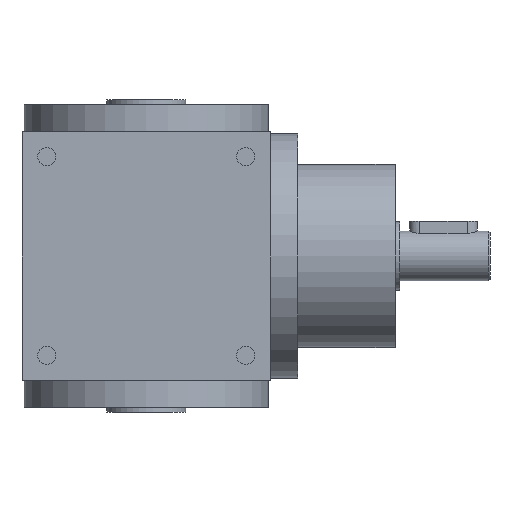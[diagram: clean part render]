
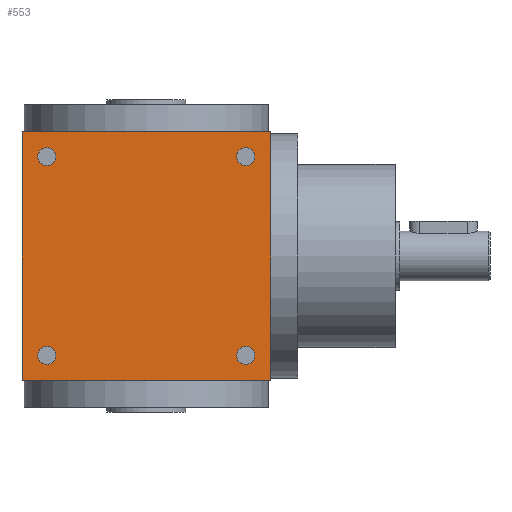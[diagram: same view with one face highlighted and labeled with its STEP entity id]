
A CAD part, left-side view. The second image highlights one B-rep face of the part: STEP entity #553.
In plain terms, the highlighted planar face has unit normal (-1, 0, 0).
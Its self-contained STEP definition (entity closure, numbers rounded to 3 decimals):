
#32 = DIRECTION ( 'NONE',  ( 1., 0., 0. ) ) ;
#34 = DIRECTION ( 'NONE',  ( 0., 0., -1. ) ) ;
#51 = CARTESIAN_POINT ( 'NONE',  ( -55., -44., -48. ) ) ;
#68 = CARTESIAN_POINT ( 'NONE',  ( -55., -44., 48. ) ) ;
#91 = CARTESIAN_POINT ( 'NONE',  ( -55., -55., 55. ) ) ;
#96 = DIRECTION ( 'NONE',  ( 0., 0., -1. ) ) ;
#111 = DIRECTION ( 'NONE',  ( 1., 0., 0. ) ) ;
#134 = DIRECTION ( 'NONE',  ( 0., 0., -1. ) ) ;
#143 = VERTEX_POINT ( 'NONE', #720 ) ;
#173 = CARTESIAN_POINT ( 'NONE',  ( -55., -44., -44. ) ) ;
#180 = CARTESIAN_POINT ( 'NONE',  ( -55., 44., 48. ) ) ;
#190 = ORIENTED_EDGE ( 'NONE', *, *, #5753, .T. ) ;
#203 = CARTESIAN_POINT ( 'NONE',  ( -55., 55., -55. ) ) ;
#220 = VERTEX_POINT ( 'NONE', #180 ) ;
#246 = DIRECTION ( 'NONE',  ( 1., 0., 0. ) ) ;
#248 = CARTESIAN_POINT ( 'NONE',  ( -55., -55., 55. ) ) ;
#300 = EDGE_LOOP ( 'NONE', ( #638, #190 ) ) ;
#338 = DIRECTION ( 'NONE',  ( 1., 0., 0. ) ) ;
#349 = EDGE_LOOP ( 'NONE', ( #562, #5762 ) ) ;
#442 = CARTESIAN_POINT ( 'NONE',  ( -55., 44., -44. ) ) ;
#450 = EDGE_LOOP ( 'NONE', ( #788, #1363, #3472, #4327 ) ) ;
#520 = EDGE_CURVE ( 'NONE', #4783, #4170, #1506, .T. ) ;
#553 = ADVANCED_FACE ( 'NONE', ( #1416, #1104, #909, #762, #605 ), #795, .F. ) ;
#562 = ORIENTED_EDGE ( 'NONE', *, *, #520, .T. ) ;
#605 = FACE_BOUND ( 'NONE', #300, .T. ) ;
#638 = ORIENTED_EDGE ( 'NONE', *, *, #5896, .T. ) ;
#652 = DIRECTION ( 'NONE',  ( 0., 0., -1. ) ) ;
#720 = CARTESIAN_POINT ( 'NONE',  ( -55., 44., 40. ) ) ;
#762 = FACE_BOUND ( 'NONE', #349, .T. ) ;
#788 = ORIENTED_EDGE ( 'NONE', *, *, #5116, .F. ) ;
#795 = PLANE ( 'NONE',  #1862 ) ;
#909 = FACE_BOUND ( 'NONE', #3723, .T. ) ;
#923 = VERTEX_POINT ( 'NONE', #203 ) ;
#966 = VERTEX_POINT ( 'NONE', #248 ) ;
#970 = AXIS2_PLACEMENT_3D ( 'NONE', #4626, #1871, #5100 ) ;
#1104 = FACE_BOUND ( 'NONE', #2735, .T. ) ;
#1165 = VECTOR ( 'NONE', #4078, 1000. ) ;
#1301 = DIRECTION ( 'NONE',  ( 0., 0., 1. ) ) ;
#1308 = ORIENTED_EDGE ( 'NONE', *, *, #2926, .T. ) ;
#1363 = ORIENTED_EDGE ( 'NONE', *, *, #5220, .F. ) ;
#1388 = VECTOR ( 'NONE', #5863, 1000. ) ;
#1406 = AXIS2_PLACEMENT_3D ( 'NONE', #4677, #4656, #4602 ) ;
#1416 = FACE_OUTER_BOUND ( 'NONE', #450, .T. ) ;
#1506 = CIRCLE ( 'NONE', #2190, 4. ) ;
#1519 = EDGE_CURVE ( 'NONE', #3333, #2915, #2423, .T. ) ;
#1543 = CIRCLE ( 'NONE', #1406, 4. ) ;
#1581 = CARTESIAN_POINT ( 'NONE',  ( -55., 55., -55. ) ) ;
#1684 = CARTESIAN_POINT ( 'NONE',  ( -55., -55., 55. ) ) ;
#1767 = AXIS2_PLACEMENT_3D ( 'NONE', #3243, #338, #3675 ) ;
#1862 = AXIS2_PLACEMENT_3D ( 'NONE', #91, #111, #134 ) ;
#1871 = DIRECTION ( 'NONE',  ( 1., 0., 0. ) ) ;
#2100 = DIRECTION ( 'NONE',  ( 0., 0., -1. ) ) ;
#2120 = AXIS2_PLACEMENT_3D ( 'NONE', #442, #246, #34 ) ;
#2161 = DIRECTION ( 'NONE',  ( 1., 0., 0. ) ) ;
#2190 = AXIS2_PLACEMENT_3D ( 'NONE', #2435, #2161, #2100 ) ;
#2201 = DIRECTION ( 'NONE',  ( 0., 1., 0. ) ) ;
#2423 = CIRCLE ( 'NONE', #2120, 4. ) ;
#2427 = LINE ( 'NONE', #1684, #1388 ) ;
#2435 = CARTESIAN_POINT ( 'NONE',  ( -55., -44., 44. ) ) ;
#2565 = CIRCLE ( 'NONE', #1767, 4. ) ;
#2571 = CIRCLE ( 'NONE', #970, 4. ) ;
#2735 = EDGE_LOOP ( 'NONE', ( #1308, #4254 ) ) ;
#2736 = VERTEX_POINT ( 'NONE', #5628 ) ;
#2915 = VERTEX_POINT ( 'NONE', #4877 ) ;
#2926 = EDGE_CURVE ( 'NONE', #220, #143, #1543, .T. ) ;
#2935 = CARTESIAN_POINT ( 'NONE',  ( -55., -44., 44. ) ) ;
#2987 = DIRECTION ( 'NONE',  ( 1., 0., 0. ) ) ;
#3088 = CARTESIAN_POINT ( 'NONE',  ( -55., 55., 55. ) ) ;
#3164 = CARTESIAN_POINT ( 'NONE',  ( -55., -44., -40. ) ) ;
#3189 = AXIS2_PLACEMENT_3D ( 'NONE', #173, #3514, #652 ) ;
#3243 = CARTESIAN_POINT ( 'NONE',  ( -55., 44., 44. ) ) ;
#3252 = CARTESIAN_POINT ( 'NONE',  ( -55., 55., 55. ) ) ;
#3333 = VERTEX_POINT ( 'NONE', #5456 ) ;
#3382 = DIRECTION ( 'NONE',  ( 0., 0., -1. ) ) ;
#3472 = ORIENTED_EDGE ( 'NONE', *, *, #3684, .F. ) ;
#3514 = DIRECTION ( 'NONE',  ( 1., 0., 0. ) ) ;
#3675 = DIRECTION ( 'NONE',  ( 0., 0., -1. ) ) ;
#3684 = EDGE_CURVE ( 'NONE', #2736, #923, #4994, .T. ) ;
#3723 = EDGE_LOOP ( 'NONE', ( #4610, #3814 ) ) ;
#3814 = ORIENTED_EDGE ( 'NONE', *, *, #5546, .T. ) ;
#4068 = AXIS2_PLACEMENT_3D ( 'NONE', #5715, #2987, #96 ) ;
#4078 = DIRECTION ( 'NONE',  ( 0., -1., 0. ) ) ;
#4170 = VERTEX_POINT ( 'NONE', #5305 ) ;
#4254 = ORIENTED_EDGE ( 'NONE', *, *, #5460, .T. ) ;
#4327 = ORIENTED_EDGE ( 'NONE', *, *, #5310, .F. ) ;
#4602 = DIRECTION ( 'NONE',  ( 0., 0., -1. ) ) ;
#4610 = ORIENTED_EDGE ( 'NONE', *, *, #1519, .T. ) ;
#4626 = CARTESIAN_POINT ( 'NONE',  ( -55., 44., -44. ) ) ;
#4656 = DIRECTION ( 'NONE',  ( 1., 0., 0. ) ) ;
#4677 = CARTESIAN_POINT ( 'NONE',  ( -55., 44., 44. ) ) ;
#4783 = VERTEX_POINT ( 'NONE', #68 ) ;
#4877 = CARTESIAN_POINT ( 'NONE',  ( -55., 44., -48. ) ) ;
#4914 = VECTOR ( 'NONE', #2201, 1000. ) ;
#4941 = VERTEX_POINT ( 'NONE', #3088 ) ;
#4994 = LINE ( 'NONE', #1581, #4914 ) ;
#5001 = CIRCLE ( 'NONE', #3189, 4. ) ;
#5027 = CARTESIAN_POINT ( 'NONE',  ( -55., 55., 55. ) ) ;
#5100 = DIRECTION ( 'NONE',  ( 0., 0., -1. ) ) ;
#5115 = AXIS2_PLACEMENT_3D ( 'NONE', #2935, #32, #3382 ) ;
#5116 = EDGE_CURVE ( 'NONE', #4941, #966, #5926, .T. ) ;
#5220 = EDGE_CURVE ( 'NONE', #923, #4941, #5272, .T. ) ;
#5272 = LINE ( 'NONE', #3252, #5582 ) ;
#5305 = CARTESIAN_POINT ( 'NONE',  ( -55., -44., 40. ) ) ;
#5310 = EDGE_CURVE ( 'NONE', #966, #2736, #2427, .T. ) ;
#5325 = VERTEX_POINT ( 'NONE', #3164 ) ;
#5456 = CARTESIAN_POINT ( 'NONE',  ( -55., 44., -40. ) ) ;
#5460 = EDGE_CURVE ( 'NONE', #143, #220, #2565, .T. ) ;
#5515 = CIRCLE ( 'NONE', #4068, 4. ) ;
#5546 = EDGE_CURVE ( 'NONE', #2915, #3333, #2571, .T. ) ;
#5582 = VECTOR ( 'NONE', #1301, 1000. ) ;
#5628 = CARTESIAN_POINT ( 'NONE',  ( -55., -55., -55. ) ) ;
#5680 = EDGE_CURVE ( 'NONE', #4170, #4783, #5694, .T. ) ;
#5694 = CIRCLE ( 'NONE', #5115, 4. ) ;
#5715 = CARTESIAN_POINT ( 'NONE',  ( -55., -44., -44. ) ) ;
#5725 = VERTEX_POINT ( 'NONE', #51 ) ;
#5753 = EDGE_CURVE ( 'NONE', #5725, #5325, #5515, .T. ) ;
#5762 = ORIENTED_EDGE ( 'NONE', *, *, #5680, .T. ) ;
#5863 = DIRECTION ( 'NONE',  ( 0., 0., -1. ) ) ;
#5896 = EDGE_CURVE ( 'NONE', #5325, #5725, #5001, .T. ) ;
#5926 = LINE ( 'NONE', #5027, #1165 ) ;
